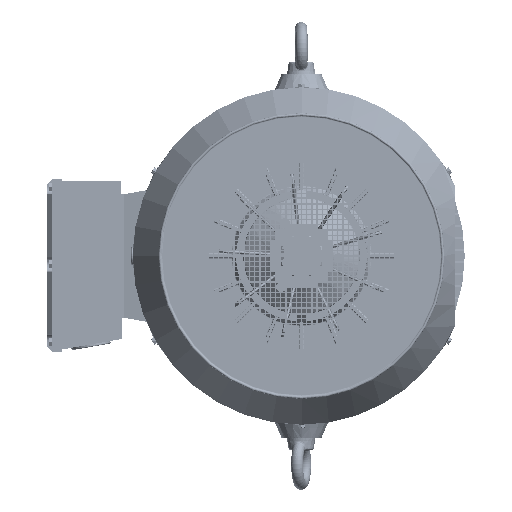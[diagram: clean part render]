
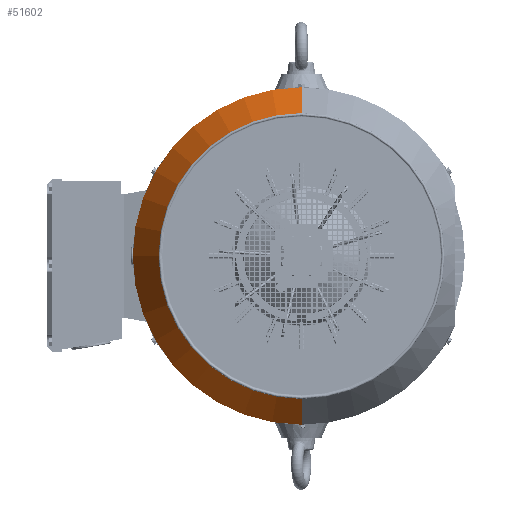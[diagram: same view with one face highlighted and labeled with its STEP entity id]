
A CAD part, left-side view. The second image highlights one B-rep face of the part: STEP entity #51602.
In plain terms, the highlighted conical face has half-angle 30 degrees and reference radius 289 mm.
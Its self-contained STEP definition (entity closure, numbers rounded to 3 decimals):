
#51529 = VERTEX_POINT ( 'NONE', #191687 ) ;
#51532 = EDGE_CURVE ( 'NONE', #51536, #51529, #191679, .T. ) ;
#51536 = VERTEX_POINT ( 'NONE', #191666 ) ;
#51602 = ADVANCED_FACE ( 'NONE', ( #191702 ), #191699, .T. ) ;
#51609 = EDGE_LOOP ( 'NONE', ( #51613, #51616, #51623, #51635 ) ) ;
#51613 = ORIENTED_EDGE ( 'NONE', *, *, #51532, .T. ) ;
#51616 = ORIENTED_EDGE ( 'NONE', *, *, #51619, .T. ) ;
#51619 = EDGE_CURVE ( 'NONE', #51529, #51620, #191848, .T. ) ;
#51620 = VERTEX_POINT ( 'NONE', #191837 ) ;
#51623 = ORIENTED_EDGE ( 'NONE', *, *, #51624, .F. ) ;
#51624 = EDGE_CURVE ( 'NONE', #51627, #51620, #191818, .T. ) ;
#51627 = VERTEX_POINT ( 'NONE', #192001 ) ;
#51635 = ORIENTED_EDGE ( 'NONE', *, *, #51636, .F. ) ;
#51636 = EDGE_CURVE ( 'NONE', #51536, #51627, #191976, .T. ) ;
#191666 = CARTESIAN_POINT ( 'NONE',  ( -289., 0., 312. ) ) ;
#191669 = DIRECTION ( 'NONE',  ( -1., 0., 0. ) ) ;
#191672 = DIRECTION ( 'NONE',  ( 0., 0., -1. ) ) ;
#191674 = CARTESIAN_POINT ( 'NONE',  ( 0., 0., 312. ) ) ;
#191677 = AXIS2_PLACEMENT_3D ( 'NONE', #191674, #191672, #191669 ) ;
#191679 = CIRCLE ( 'NONE', #191677, 289. ) ;
#191687 = CARTESIAN_POINT ( 'NONE',  ( 289., 0., 312. ) ) ;
#191698 = CARTESIAN_POINT ( 'NONE',  ( 0., 0., 312. ) ) ;
#191699 = CONICAL_SURFACE ( 'NONE', #191895, 289., 0.524 ) ;
#191702 = FACE_OUTER_BOUND ( 'NONE', #51609, .T. ) ;
#191809 = DIRECTION ( 'NONE',  ( -1., 0., 0. ) ) ;
#191810 = DIRECTION ( 'NONE',  ( 0., 0., -1. ) ) ;
#191814 = CARTESIAN_POINT ( 'NONE',  ( 0., 0., 221.933 ) ) ;
#191815 = AXIS2_PLACEMENT_3D ( 'NONE', #191814, #191810, #191809 ) ;
#191818 = CIRCLE ( 'NONE', #191815, 341. ) ;
#191837 = CARTESIAN_POINT ( 'NONE',  ( 341., 0., 221.933 ) ) ;
#191840 = DIRECTION ( 'NONE',  ( 0.5, 0., -0.866 ) ) ;
#191842 = VECTOR ( 'NONE', #191840, 1000. ) ;
#191845 = CARTESIAN_POINT ( 'NONE',  ( 289., 0., 312. ) ) ;
#191848 = LINE ( 'NONE', #191845, #191842 ) ;
#191891 = DIRECTION ( 'NONE',  ( -1., 0., 0. ) ) ;
#191893 = DIRECTION ( 'NONE',  ( 0., 0., -1. ) ) ;
#191895 = AXIS2_PLACEMENT_3D ( 'NONE', #191698, #191893, #191891 ) ;
#191969 = DIRECTION ( 'NONE',  ( -0.5, 0., -0.866 ) ) ;
#191971 = VECTOR ( 'NONE', #191969, 1000. ) ;
#191974 = CARTESIAN_POINT ( 'NONE',  ( -289., 0., 312. ) ) ;
#191976 = LINE ( 'NONE', #191974, #191971 ) ;
#192001 = CARTESIAN_POINT ( 'NONE',  ( -341., 0., 221.933 ) ) ;
